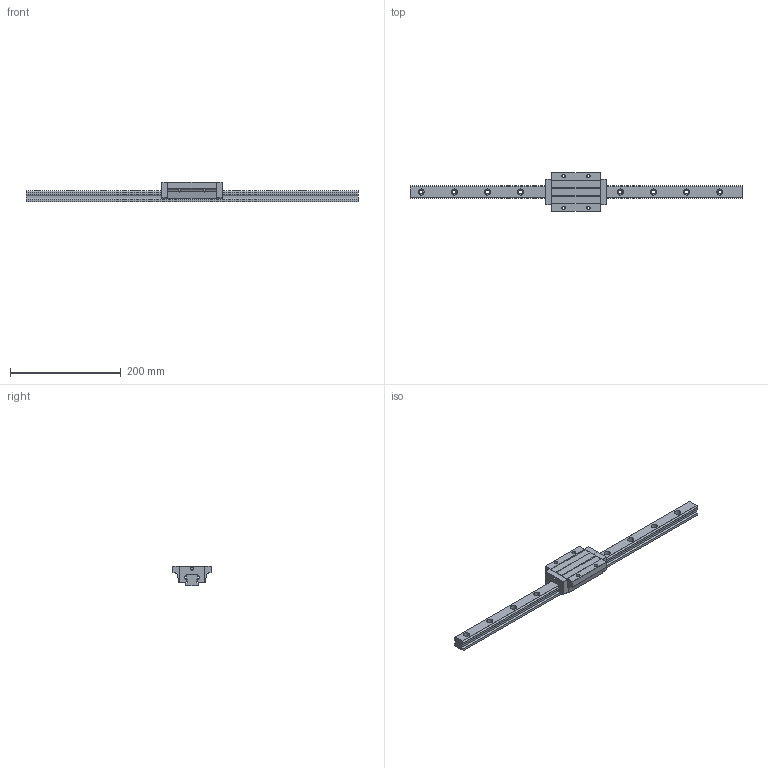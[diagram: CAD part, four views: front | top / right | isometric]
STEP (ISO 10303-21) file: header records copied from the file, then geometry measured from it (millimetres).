
FILE_DESCRIPTION (( 'STEP AP203' ), '1' );
FILE_NAME ('TRS25FN-XN.STEP', '2023-02-09T00:52:44', ( '' ), ( '' ), 'SwSTEP 2.0', 'SolidWorks 2019', '' );
FILE_SCHEMA (( 'CONFIG_CONTROL_DESIGN' ));
Length unit declared in the file: millimetre
Products named in the file (1): TRS25FN-XN
Bounding box: 600 x 70 x 36 mm (x, y, z)
Volume: 377288.6 mm3; surface area: 90676.2 mm2
Topology: 4 solids, 4 shells, 190 faces, 502 edges, 328 vertices
Faces by surface type: plane 94, cylinder 92, sphere 4
Entity records: 6329 total; most frequent: CARTESIAN_POINT 1389, DIRECTION 1032, ORIENTED_EDGE 996, EDGE_CURVE 498, AXIS2_PLACEMENT_3D 363, VERTEX_POINT 328, VECTOR 306, LINE 306
